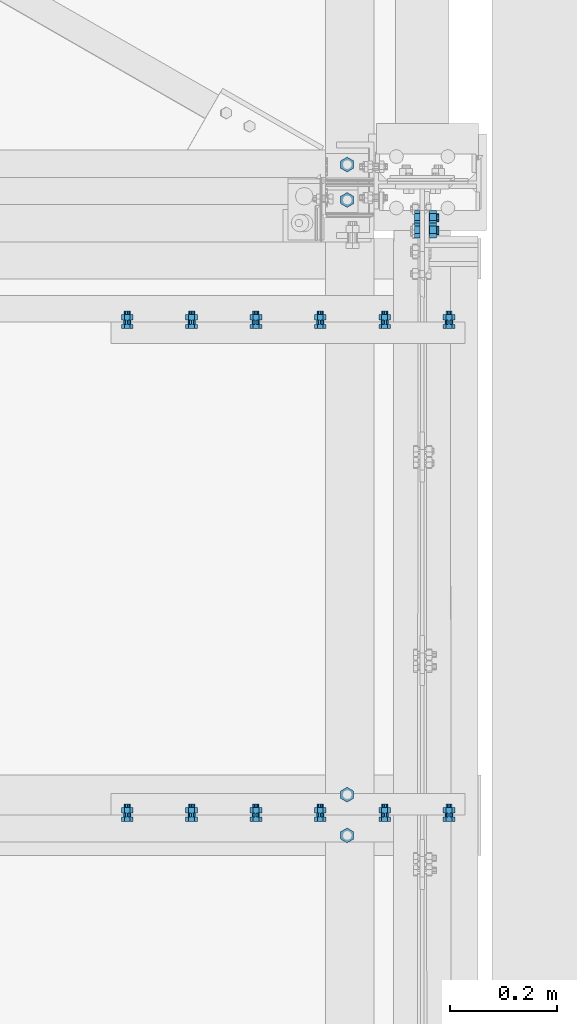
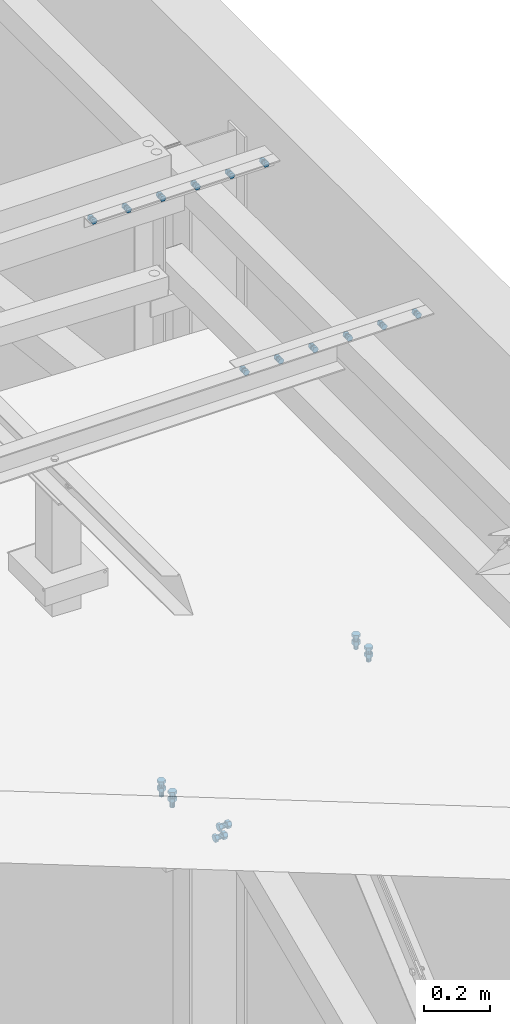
# One storey, part 349 of 3134: 5 mechanical fasteners, 5 elements without a shape of their own.
"""IFC2X3 building model written with IfcOpenShell, lengths in millimetres."""

from ifc_helpers import new_model, si_unit, frame, origin_with_axes, place, context, subcontext, project, spatial, faceted_brep, source, transform, mapped, material, type_object, element, aggregate, save


model = new_model("IFC2X3")

# Units and contexts
model_context = context("Model", 3, precision=1e-05, world=origin_with_axes())
body_context = subcontext(model_context, "Body", "Model", "MODEL_VIEW")
ifc_project = project(units=[si_unit("LENGTHUNIT", "METRE", prefix="MILLI"), si_unit("AREAUNIT", "SQUARE_METRE"), si_unit("VOLUMEUNIT", "CUBIC_METRE"), si_unit("MASSUNIT", "GRAM", prefix="KILO"), si_unit("TIMEUNIT", "SECOND"), si_unit("PLANEANGLEUNIT", "RADIAN"), si_unit("SOLIDANGLEUNIT", "STERADIAN"), si_unit("THERMODYNAMICTEMPERATUREUNIT", "DEGREE_CELSIUS"), si_unit("LUMINOUSINTENSITYUNIT", "LUMEN")], contexts=[model_context])

# Site, building, storey
site_placement = place(None, origin_with_axes())
site = spatial("IfcSite", under=ifc_project, at=site_placement, CompositionType="ELEMENT")
building_placement = place(site_placement, origin_with_axes())
building = spatial("IfcBuilding", under=site, at=building_placement, Name="Undefined", CompositionType="ELEMENT")
storey_placement = place(building_placement, origin_with_axes())
storey = spatial("IfcBuildingStorey", under=building, at=storey_placement, Name="Undefined", CompositionType="ELEMENT", Elevation=0.0)

# Assembly, mechanical fastener
assembly_1_placement = place(storey_placement, origin_with_axes())
assembly_1 = element("IfcElementAssembly", 1, at=assembly_1_placement, inside=storey, Name="IPE200", AssemblyPlace="NOTDEFINED", PredefinedType="RIGID_FRAME")
ifc_material = material(Name="8.8")
mechanical_fastener_type = type_object("IfcMechanicalFastenerType", Name="Bolt assembly")
shared_shape_1 = source(origin_with_axes(), body_context, "Body", "Brep", [
    faceted_brep([(13.856406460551, -12.9999980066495, 0.0), (6.92820323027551, -12.9999980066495, 12.0), (-6.92820323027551, -12.9999980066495, 12.0), (-13.856406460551, -12.9999980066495, 1.69692038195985e-15), (-6.92820323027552, -12.9999980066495, -12.0), (6.9282032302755, -12.9999980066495, -12.0), (6.9282032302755, -2.99999800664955, -12.0), (-6.92820323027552, -2.99999800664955, -12.0), (-13.856406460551, -2.99999800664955, 1.69692038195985e-15), (-6.92820323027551, -2.99999800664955, 12.0), (6.92820323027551, -2.99999800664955, 12.0), (13.856406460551, -2.99999800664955, 0.0), (8.0, -2.99999800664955, 0.0), (6.92820323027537, -2.99999800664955, 4.00000000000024), (3.99999999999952, -2.99999800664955, 6.92820323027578), (-8.29068785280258e-13, -2.99999800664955, 8.0), (-4.00000000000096, -2.99999800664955, 6.92820323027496), (-6.9282032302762, -2.99999800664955, 3.99999999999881), (-8.0, -2.99999800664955, -1.65813757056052e-12), (-6.92820323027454, -2.99999800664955, -4.00000000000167), (-3.99999999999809, -2.99999800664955, -6.92820323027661), (2.47832457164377e-12, -2.99999800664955, -8.0), (4.00000000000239, -2.99999800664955, -6.92820323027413), (6.92820323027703, -2.99999800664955, -3.99999999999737), (6.92820323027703, 32.0000019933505, -3.99999999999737), (4.00000000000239, 32.0000019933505, -6.92820323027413), (2.47832457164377e-12, 32.0000019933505, -8.0), (-3.99999999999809, 32.0000019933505, -6.92820323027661), (-6.92820323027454, 32.0000019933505, -4.00000000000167), (-8.0, 32.0000019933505, -1.65813757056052e-12), (-6.9282032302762, 32.0000019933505, 3.99999999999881), (-4.00000000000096, 32.0000019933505, 6.92820323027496), (-8.29068785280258e-13, 32.0000019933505, 8.0), (3.99999999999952, 32.0000019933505, 6.92820323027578), (6.92820323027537, 32.0000019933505, 4.00000000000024), (8.0, 32.0000019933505, 0.0), (13.856406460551, 14.9999995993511, 0.0), (6.92820323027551, 14.9999995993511, 12.0), (-6.92820323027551, 14.9999995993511, 12.0), (-13.856406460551, 14.9999995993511, 1.69692038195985e-15), (-6.92820323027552, 14.9999995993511, -12.0), (6.9282032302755, 14.9999995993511, -12.0), (6.9282032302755, 27.9999995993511, -12.0), (-6.92820323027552, 27.9999995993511, -12.0), (-13.856406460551, 27.9999995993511, 1.69692038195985e-15), (-6.92820323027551, 27.9999995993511, 12.0), (6.92820323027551, 27.9999995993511, 12.0), (13.856406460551, 27.9999995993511, 0.0)], [[[0, 1, 2, 3, 4, 5]], [[6, 7, 8, 9, 10, 11]], [[0, 11, 10, 1]], [[1, 10, 9, 2]], [[2, 9, 8, 3]], [[3, 8, 7, 4]], [[4, 7, 6, 5]], [[5, 6, 11, 0]], [[12, 13, 14, 15, 16, 17, 18, 19, 20, 21, 22, 23]], [[24, 25, 26, 27, 28, 29, 30, 31, 32, 33, 34, 35]], [[12, 35, 34, 13]], [[13, 34, 33, 14]], [[14, 33, 32, 15]], [[15, 32, 31, 16]], [[16, 31, 30, 17]], [[17, 30, 29, 18]], [[18, 29, 28, 19]], [[19, 28, 27, 20]], [[20, 27, 26, 21]], [[21, 26, 25, 22]], [[22, 25, 24, 23]], [[23, 24, 35, 12]], [[36, 37, 38, 39, 40, 41]], [[42, 43, 44, 45, 46, 47]], [[36, 47, 46, 37]], [[37, 46, 45, 38]], [[38, 45, 44, 39]], [[39, 44, 43, 40]], [[40, 43, 42, 41]], [[41, 42, 47, 36]]]),
    faceted_brep([(9.0, 4.90000583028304, 0.0), (7.79422863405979, 4.90000583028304, 4.50000000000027), (4.49999999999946, 4.90000583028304, 7.79422863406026), (-9.3270238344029e-13, 4.90000583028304, 9.0), (-4.50000000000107, 4.90000583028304, 7.79422863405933), (-7.79422863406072, 4.90000583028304, 4.49999999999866), (-9.0, 4.90000583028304, -1.86540476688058e-12), (-7.79422863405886, 4.90000583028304, -4.50000000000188), (-4.49999999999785, 4.90000583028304, -7.79422863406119), (2.78811514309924e-12, 4.90000583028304, -9.0), (4.50000000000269, 4.90000583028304, -7.7942286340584), (7.79422863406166, 4.90000583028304, -4.49999999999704), (7.79422863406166, 14.9999995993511, -4.49999999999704), (4.50000000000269, 14.9999995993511, -7.7942286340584), (2.78811514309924e-12, 14.9999995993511, -9.0), (-4.49999999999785, 14.9999995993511, -7.79422863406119), (-7.79422863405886, 14.9999995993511, -4.50000000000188), (-9.0, 14.9999995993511, -1.86540476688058e-12), (-7.79422863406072, 14.9999995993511, 4.49999999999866), (-4.50000000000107, 14.9999995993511, 7.79422863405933), (-9.3270238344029e-13, 14.9999995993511, 9.0), (4.49999999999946, 14.9999995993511, 7.79422863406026), (7.79422863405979, 14.9999995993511, 4.50000000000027), (9.0, 14.9999995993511, 0.0), (9.0, -2.89999800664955, 0.0), (7.79422863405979, -2.89999800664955, 4.50000000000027), (4.49999999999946, -2.89999800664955, 7.79422863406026), (-9.3270238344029e-13, -2.89999800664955, 9.0), (-4.50000000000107, -2.89999800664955, 7.79422863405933), (-7.79422863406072, -2.89999800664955, 4.49999999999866), (-9.0, -2.89999800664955, -1.86540476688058e-12), (-7.79422863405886, -2.89999800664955, -4.50000000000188), (-4.49999999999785, -2.89999800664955, -7.79422863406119), (2.78811514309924e-12, -2.89999800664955, -9.0), (4.50000000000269, -2.89999800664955, -7.7942286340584), (7.79422863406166, -2.89999800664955, -4.49999999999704), (7.79422863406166, 5.10000199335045, -4.49999999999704), (4.50000000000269, 5.10000199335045, -7.7942286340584), (2.78811514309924e-12, 5.10000199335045, -9.0), (-4.49999999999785, 5.10000199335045, -7.79422863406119), (-7.79422863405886, 5.10000199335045, -4.50000000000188), (-9.0, 5.10000199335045, -1.86540476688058e-12), (-7.79422863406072, 5.10000199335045, 4.49999999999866), (-4.50000000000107, 5.10000199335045, 7.79422863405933), (-9.3270238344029e-13, 5.10000199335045, 9.0), (4.49999999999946, 5.10000199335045, 7.79422863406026), (7.79422863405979, 5.10000199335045, 4.50000000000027), (9.0, 5.10000199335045, 0.0)], [[[0, 1, 2, 3, 4, 5, 6, 7, 8, 9, 10, 11]], [[12, 13, 14, 15, 16, 17, 18, 19, 20, 21, 22, 23]], [[0, 23, 22, 1]], [[1, 22, 21, 2]], [[2, 21, 20, 3]], [[3, 20, 19, 4]], [[4, 19, 18, 5]], [[5, 18, 17, 6]], [[6, 17, 16, 7]], [[7, 16, 15, 8]], [[8, 15, 14, 9]], [[9, 14, 13, 10]], [[10, 13, 12, 11]], [[11, 12, 23, 0]], [[24, 25, 26, 27, 28, 29, 30, 31, 32, 33, 34, 35]], [[36, 37, 38, 39, 40, 41, 42, 43, 44, 45, 46, 47]], [[24, 47, 46, 25]], [[25, 46, 45, 26]], [[26, 45, 44, 27]], [[27, 44, 43, 28]], [[28, 43, 42, 29]], [[29, 42, 41, 30]], [[30, 41, 40, 31]], [[31, 40, 39, 32]], [[32, 39, 38, 33]], [[33, 38, 37, 34]], [[34, 37, 36, 35]], [[35, 36, 47, 24]]]),
])
mechanical_fastener_1_placement = place(assembly_1_placement, frame((79223.999998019, 13483.8993577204, 3341.68002528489), z_axis=(0.0, 0.917802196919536, 0.397037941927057), x_axis=(0.0, -0.397037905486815, 0.917802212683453)))
mechanical_fastener_1 = element("IfcMechanicalFastener", 2, at=mechanical_fastener_1_placement, type_object=mechanical_fastener_type, material=ifc_material, Name="Bolt assembly", NominalDiameter=16.0, NominalLength=35.0, context=body_context, shape_type="MappedRepresentation", body=[
    mapped(shared_shape_1, transform((0.0, 0.0, 0.0))),
    mapped(shared_shape_1, transform((59.9999999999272, 0.0, 5.40239852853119e-10))),
])
aggregate(assembly_1, [mechanical_fastener_1])

assembly_2_placement = place(storey_placement, origin_with_axes())
assembly_2 = element("IfcElementAssembly", 3, at=assembly_2_placement, inside=storey, Name="UPN260", AssemblyPlace="NOTDEFINED", PredefinedType="RIGID_FRAME")
shared_shape_2 = source(origin_with_axes(), body_context, "Body", "Brep", [
    faceted_brep([(13.856406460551, -10.0, 0.0), (6.92820323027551, -10.0, 12.0), (-6.92820323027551, -10.0, 12.0), (-13.856406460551, -10.0, 1.69692038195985e-15), (-6.92820323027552, -10.0, -12.0), (6.9282032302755, -10.0, -12.0), (6.9282032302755, 0.0, -12.0), (-6.92820323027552, 0.0, -12.0), (-13.856406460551, 0.0, 1.69692038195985e-15), (-6.92820323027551, 0.0, 12.0), (6.92820323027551, 0.0, 12.0), (13.856406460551, 0.0, 0.0), (8.0, 0.0, 0.0), (6.92820323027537, 0.0, 4.00000000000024), (3.99999999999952, 0.0, 6.92820323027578), (-8.29068785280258e-13, 0.0, 8.0), (-4.00000000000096, 0.0, 6.92820323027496), (-6.9282032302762, 0.0, 3.99999999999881), (-8.0, 0.0, -1.65813757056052e-12), (-6.92820323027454, 0.0, -4.00000000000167), (-3.99999999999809, 0.0, -6.92820323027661), (2.47832457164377e-12, 0.0, -8.0), (4.00000000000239, 0.0, -6.92820323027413), (6.92820323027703, 0.0, -3.99999999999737), (6.92820323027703, 45.0, -3.99999999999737), (4.00000000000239, 45.0, -6.92820323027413), (2.47832457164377e-12, 45.0, -8.0), (-3.99999999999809, 45.0, -6.92820323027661), (-6.92820323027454, 45.0, -4.00000000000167), (-8.0, 45.0, -1.65813757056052e-12), (-6.9282032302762, 45.0, 3.99999999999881), (-4.00000000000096, 45.0, 6.92820323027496), (-8.29068785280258e-13, 45.0, 8.0), (3.99999999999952, 45.0, 6.92820323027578), (6.92820323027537, 45.0, 4.00000000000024), (8.0, 45.0, 0.0), (13.856406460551, 13.9999999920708, 0.0), (6.92820323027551, 13.9999999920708, 12.0), (-6.92820323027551, 13.9999999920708, 12.0), (-13.856406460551, 13.9999999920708, 1.69692038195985e-15), (-6.92820323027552, 13.9999999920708, -12.0), (6.9282032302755, 13.9999999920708, -12.0), (6.9282032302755, 27.0, -12.0), (-6.92820323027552, 27.0, -12.0), (-13.856406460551, 27.0, 1.69692038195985e-15), (-6.92820323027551, 27.0, 12.0), (6.92820323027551, 27.0, 12.0), (13.856406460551, 27.0, 0.0)], [[[0, 1, 2, 3, 4, 5]], [[6, 7, 8, 9, 10, 11]], [[0, 11, 10, 1]], [[1, 10, 9, 2]], [[2, 9, 8, 3]], [[3, 8, 7, 4]], [[4, 7, 6, 5]], [[5, 6, 11, 0]], [[12, 13, 14, 15, 16, 17, 18, 19, 20, 21, 22, 23]], [[24, 25, 26, 27, 28, 29, 30, 31, 32, 33, 34, 35]], [[12, 35, 34, 13]], [[13, 34, 33, 14]], [[14, 33, 32, 15]], [[15, 32, 31, 16]], [[16, 31, 30, 17]], [[17, 30, 29, 18]], [[18, 29, 28, 19]], [[19, 28, 27, 20]], [[20, 27, 26, 21]], [[21, 26, 25, 22]], [[22, 25, 24, 23]], [[23, 24, 35, 12]], [[36, 37, 38, 39, 40, 41]], [[42, 43, 44, 45, 46, 47]], [[36, 47, 46, 37]], [[37, 46, 45, 38]], [[38, 45, 44, 39]], [[39, 44, 43, 40]], [[40, 43, 42, 41]], [[41, 42, 47, 36]]]),
    faceted_brep([(9.0, -3.46568413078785e-07, 0.0), (7.79422863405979, -3.46568413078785e-07, 4.50000000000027), (4.49999999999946, -3.46568413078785e-07, 7.79422863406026), (-9.3270238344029e-13, -3.46568413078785e-07, 9.0), (-4.50000000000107, -3.46568413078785e-07, 7.79422863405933), (-7.79422863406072, -3.46568413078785e-07, 4.49999999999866), (-9.0, -3.46568413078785e-07, -1.86540476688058e-12), (-7.79422863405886, -3.46568413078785e-07, -4.50000000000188), (-4.49999999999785, -3.46568413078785e-07, -7.79422863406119), (2.78811514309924e-12, -3.46568413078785e-07, -9.0), (4.50000000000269, -3.46568413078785e-07, -7.7942286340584), (7.79422863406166, -3.46568413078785e-07, -4.49999999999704), (7.79422863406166, 14.1000000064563, -4.49999999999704), (4.50000000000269, 14.1000000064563, -7.7942286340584), (2.78811514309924e-12, 14.1000000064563, -9.0), (-4.49999999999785, 14.1000000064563, -7.79422863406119), (-7.79422863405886, 14.1000000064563, -4.50000000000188), (-9.0, 14.1000000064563, -1.86540476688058e-12), (-7.79422863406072, 14.1000000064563, 4.49999999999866), (-4.50000000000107, 14.1000000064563, 7.79422863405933), (-9.3270238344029e-13, 14.1000000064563, 9.0), (4.49999999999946, 14.1000000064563, 7.79422863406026), (7.79422863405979, 14.1000000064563, 4.50000000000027), (9.0, 14.1000000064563, 0.0)], [[[0, 1, 2, 3, 4, 5, 6, 7, 8, 9, 10, 11]], [[12, 13, 14, 15, 16, 17, 18, 19, 20, 21, 22, 23]], [[0, 23, 22, 1]], [[1, 22, 21, 2]], [[2, 21, 20, 3]], [[3, 20, 19, 4]], [[4, 19, 18, 5]], [[5, 18, 17, 6]], [[6, 17, 16, 7]], [[7, 16, 15, 8]], [[8, 15, 14, 9]], [[9, 14, 13, 10]], [[10, 13, 12, 11]], [[11, 12, 23, 0]]]),
])
mechanical_fastener_2_placement = place(assembly_2_placement, frame((79085.0, 12332.0, 4783.722486), z_axis=(-1.0, 0.0, 0.0), x_axis=(0.0, 1.0, 0.0)))
mechanical_fastener_2 = element("IfcMechanicalFastener", 4, at=mechanical_fastener_2_placement, type_object=mechanical_fastener_type, material=ifc_material, Name="Bolt assembly", NominalDiameter=16.0, NominalLength=45.0, context=body_context, shape_type="MappedRepresentation", body=[
    mapped(shared_shape_2, transform((0.0, 0.0, 0.0))),
    mapped(shared_shape_2, transform((76.0, 0.0, 0.0))),
])
aggregate(assembly_2, [mechanical_fastener_2])

assembly_3_placement = place(storey_placement, origin_with_axes())
assembly_3 = element("IfcElementAssembly", 5, at=assembly_3_placement, inside=storey, Name="UPN260", AssemblyPlace="NOTDEFINED", PredefinedType="RIGID_FRAME")
shared_shape_3 = source(origin_with_axes(), body_context, "Body", "Brep", [
    faceted_brep([(13.856406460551, -10.0, 0.0), (6.92820323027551, -10.0, 12.0), (-6.92820323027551, -10.0, 12.0), (-13.856406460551, -10.0, 1.69692038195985e-15), (-6.92820323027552, -10.0, -12.0), (6.9282032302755, -10.0, -12.0), (6.9282032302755, 0.0, -12.0), (-6.92820323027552, 0.0, -12.0), (-13.856406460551, 0.0, 1.69692038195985e-15), (-6.92820323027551, 0.0, 12.0), (6.92820323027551, 0.0, 12.0), (13.856406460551, 0.0, 0.0), (8.0, 0.0, 0.0), (6.92820323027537, 0.0, 4.00000000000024), (3.99999999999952, 0.0, 6.92820323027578), (-8.29068785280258e-13, 0.0, 8.0), (-4.00000000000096, 0.0, 6.92820323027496), (-6.9282032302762, 0.0, 3.99999999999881), (-8.0, 0.0, -1.65813757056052e-12), (-6.92820323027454, 0.0, -4.00000000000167), (-3.99999999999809, 0.0, -6.92820323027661), (2.47832457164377e-12, 0.0, -8.0), (4.00000000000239, 0.0, -6.92820323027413), (6.92820323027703, 0.0, -3.99999999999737), (6.92820323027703, 49.9999999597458, -3.99999999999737), (4.00000000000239, 49.9999999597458, -6.92820323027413), (2.47832457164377e-12, 49.9999999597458, -8.0), (-3.99999999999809, 49.9999999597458, -6.92820323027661), (-6.92820323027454, 49.9999999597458, -4.00000000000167), (-8.0, 49.9999999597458, -1.65813757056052e-12), (-6.9282032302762, 49.9999999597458, 3.99999999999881), (-4.00000000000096, 49.9999999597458, 6.92820323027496), (-8.29068785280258e-13, 49.9999999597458, 8.0), (3.99999999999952, 49.9999999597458, 6.92820323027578), (6.92820323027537, 49.9999999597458, 4.00000000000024), (8.0, 49.9999999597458, 0.0), (13.856406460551, 13.9999999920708, 0.0), (6.92820323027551, 13.9999999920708, 12.0), (-6.92820323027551, 13.9999999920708, 12.0), (-13.856406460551, 13.9999999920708, 1.69692038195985e-15), (-6.92820323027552, 13.9999999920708, -12.0), (6.9282032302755, 13.9999999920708, -12.0), (6.9282032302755, 27.0, -12.0), (-6.92820323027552, 27.0, -12.0), (-13.856406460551, 27.0, 1.69692038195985e-15), (-6.92820323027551, 27.0, 12.0), (6.92820323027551, 27.0, 12.0), (13.856406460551, 27.0, 0.0)], [[[0, 1, 2, 3, 4, 5]], [[6, 7, 8, 9, 10, 11]], [[0, 11, 10, 1]], [[1, 10, 9, 2]], [[2, 9, 8, 3]], [[3, 8, 7, 4]], [[4, 7, 6, 5]], [[5, 6, 11, 0]], [[12, 13, 14, 15, 16, 17, 18, 19, 20, 21, 22, 23]], [[24, 25, 26, 27, 28, 29, 30, 31, 32, 33, 34, 35]], [[12, 35, 34, 13]], [[13, 34, 33, 14]], [[14, 33, 32, 15]], [[15, 32, 31, 16]], [[16, 31, 30, 17]], [[17, 30, 29, 18]], [[18, 29, 28, 19]], [[19, 28, 27, 20]], [[20, 27, 26, 21]], [[21, 26, 25, 22]], [[22, 25, 24, 23]], [[23, 24, 35, 12]], [[36, 37, 38, 39, 40, 41]], [[42, 43, 44, 45, 46, 47]], [[36, 47, 46, 37]], [[37, 46, 45, 38]], [[38, 45, 44, 39]], [[39, 44, 43, 40]], [[40, 43, 42, 41]], [[41, 42, 47, 36]]]),
    faceted_brep([(9.0, -3.46568413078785e-07, 0.0), (7.79422863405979, -3.46568413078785e-07, 4.50000000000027), (4.49999999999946, -3.46568413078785e-07, 7.79422863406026), (-9.3270238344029e-13, -3.46568413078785e-07, 9.0), (-4.50000000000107, -3.46568413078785e-07, 7.79422863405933), (-7.79422863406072, -3.46568413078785e-07, 4.49999999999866), (-9.0, -3.46568413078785e-07, -1.86540476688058e-12), (-7.79422863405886, -3.46568413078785e-07, -4.50000000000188), (-4.49999999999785, -3.46568413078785e-07, -7.79422863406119), (2.78811514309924e-12, -3.46568413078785e-07, -9.0), (4.50000000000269, -3.46568413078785e-07, -7.7942286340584), (7.79422863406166, -3.46568413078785e-07, -4.49999999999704), (7.79422863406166, 14.1000000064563, -4.49999999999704), (4.50000000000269, 14.1000000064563, -7.7942286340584), (2.78811514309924e-12, 14.1000000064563, -9.0), (-4.49999999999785, 14.1000000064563, -7.79422863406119), (-7.79422863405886, 14.1000000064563, -4.50000000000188), (-9.0, 14.1000000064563, -1.86540476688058e-12), (-7.79422863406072, 14.1000000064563, 4.49999999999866), (-4.50000000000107, 14.1000000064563, 7.79422863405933), (-9.3270238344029e-13, 14.1000000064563, 9.0), (4.49999999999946, 14.1000000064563, 7.79422863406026), (7.79422863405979, 14.1000000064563, 4.50000000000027), (9.0, 14.1000000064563, 0.0)], [[[0, 1, 2, 3, 4, 5, 6, 7, 8, 9, 10, 11]], [[12, 13, 14, 15, 16, 17, 18, 19, 20, 21, 22, 23]], [[0, 23, 22, 1]], [[1, 22, 21, 2]], [[2, 21, 20, 3]], [[3, 20, 19, 4]], [[4, 19, 18, 5]], [[5, 18, 17, 6]], [[6, 17, 16, 7]], [[7, 16, 15, 8]], [[8, 15, 14, 9]], [[9, 14, 13, 10]], [[10, 13, 12, 11]], [[11, 12, 23, 0]]]),
])
mechanical_fastener_3_placement = place(assembly_3_placement, frame((79085.0, 13517.003333, 3532.964809), z_axis=(-1.0, 0.0, 0.0), x_axis=(0.0, 1.0, 0.0)))
mechanical_fastener_3 = element("IfcMechanicalFastener", 6, at=mechanical_fastener_3_placement, type_object=mechanical_fastener_type, material=ifc_material, Name="Bolt assembly", NominalDiameter=16.0, NominalLength=50.0, context=body_context, shape_type="MappedRepresentation", body=[
    mapped(shared_shape_3, transform((0.0, 0.0, 0.0))),
    mapped(shared_shape_3, transform((66.0, 0.0, 0.0))),
])
aggregate(assembly_3, [mechanical_fastener_3])

assembly_4_placement = place(storey_placement, origin_with_axes())
assembly_4 = element("IfcElementAssembly", 7, at=assembly_4_placement, inside=storey, AssemblyPlace="NOTDEFINED", PredefinedType="RIGID_FRAME")
shared_shape_4 = source(origin_with_axes(), body_context, "Body", "Brep", [
    faceted_brep([(10.9696551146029, -12.0, 0.0), (5.48482755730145, -12.0, 9.5), (-5.48482755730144, -12.0, 9.5), (-10.9696551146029, -12.0, 1.34339530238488e-15), (-5.48482755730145, -12.0, -9.5), (5.48482755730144, -12.0, -9.50000000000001), (5.48482755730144, -4.0, -9.50000000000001), (-5.48482755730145, -4.0, -9.5), (-10.9696551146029, -4.0, 1.34339530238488e-15), (-5.48482755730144, -4.0, 9.5), (5.48482755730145, -4.0, 9.5), (10.9696551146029, -4.0, 0.0), (6.0, -4.0, 0.0), (5.19615242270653, -4.0, 3.00000000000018), (2.99999999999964, -4.0, 5.19615242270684), (-6.21801588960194e-13, -4.0, 6.0), (-3.00000000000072, -4.0, 5.19615242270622), (-5.19615242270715, -4.0, 2.9999999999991), (-6.0, -4.0, -1.24360317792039e-12), (-5.19615242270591, -4.0, -3.00000000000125), (-2.99999999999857, -4.0, -5.19615242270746), (1.85874342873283e-12, -4.0, -6.0), (3.00000000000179, -4.0, -5.1961524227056), (5.19615242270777, -4.0, -2.99999999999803), (5.19615242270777, 21.0, -2.99999999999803), (3.00000000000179, 21.0, -5.1961524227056), (1.85874342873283e-12, 21.0, -6.0), (-2.99999999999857, 21.0, -5.19615242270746), (-5.19615242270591, 21.0, -3.00000000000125), (-6.0, 21.0, -1.24360317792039e-12), (-5.19615242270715, 21.0, 2.9999999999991), (-3.00000000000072, 21.0, 5.19615242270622), (-6.21801588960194e-13, 21.0, 6.0), (2.99999999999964, 21.0, 5.19615242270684), (5.19615242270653, 21.0, 3.00000000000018), (6.0, 21.0, 0.0), (10.9696551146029, 4.00000000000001, 0.0), (5.48482755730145, 4.00000000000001, 9.5), (-5.48482755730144, 4.00000000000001, 9.5), (-10.9696551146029, 4.00000000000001, 1.34339530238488e-15), (-5.48482755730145, 4.00000000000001, -9.5), (5.48482755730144, 4.00000000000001, -9.50000000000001), (5.48482755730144, 14.0, -9.50000000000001), (-5.48482755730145, 14.0, -9.5), (-10.9696551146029, 14.0, 1.34339530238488e-15), (-5.48482755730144, 14.0, 9.5), (5.48482755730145, 14.0, 9.5), (10.9696551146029, 14.0, 0.0)], [[[0, 1, 2, 3, 4, 5]], [[6, 7, 8, 9, 10, 11]], [[0, 11, 10, 1]], [[1, 10, 9, 2]], [[2, 9, 8, 3]], [[3, 8, 7, 4]], [[4, 7, 6, 5]], [[5, 6, 11, 0]], [[12, 13, 14, 15, 16, 17, 18, 19, 20, 21, 22, 23]], [[24, 25, 26, 27, 28, 29, 30, 31, 32, 33, 34, 35]], [[12, 35, 34, 13]], [[13, 34, 33, 14]], [[14, 33, 32, 15]], [[15, 32, 31, 16]], [[16, 31, 30, 17]], [[17, 30, 29, 18]], [[18, 29, 28, 19]], [[19, 28, 27, 20]], [[20, 27, 26, 21]], [[21, 26, 25, 22]], [[22, 25, 24, 23]], [[23, 24, 35, 12]], [[36, 37, 38, 39, 40, 41]], [[42, 43, 44, 45, 46, 47]], [[36, 47, 46, 37]], [[37, 46, 45, 38]], [[38, 45, 44, 39]], [[39, 44, 43, 40]], [[40, 43, 42, 41]], [[41, 42, 47, 36]]]),
    faceted_brep([(7.0, -3.9, 0.0), (6.06217782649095, -3.9, 3.50000000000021), (3.49999999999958, -3.9, 6.06217782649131), (-7.25435187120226e-13, -3.9, 7.0), (-3.50000000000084, -3.9, 6.06217782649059), (-6.06217782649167, -3.9, 3.49999999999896), (-7.0, -3.9, -1.45087037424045e-12), (-6.06217782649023, -3.9, -3.50000000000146), (-3.49999999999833, -3.9, -6.06217782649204), (2.1685340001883e-12, -3.9, -7.0), (3.50000000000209, -3.9, -6.06217782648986), (6.0621778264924, -3.9, -3.4999999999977), (6.0621778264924, 0.0999999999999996, -3.4999999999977), (3.50000000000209, 0.0999999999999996, -6.06217782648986), (2.1685340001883e-12, 0.0999999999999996, -7.0), (-3.49999999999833, 0.0999999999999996, -6.06217782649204), (-6.06217782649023, 0.0999999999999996, -3.50000000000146), (-7.0, 0.0999999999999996, -1.45087037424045e-12), (-6.06217782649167, 0.0999999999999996, 3.49999999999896), (-3.50000000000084, 0.0999999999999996, 6.06217782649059), (-7.25435187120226e-13, 0.0999999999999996, 7.0), (3.49999999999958, 0.0999999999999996, 6.06217782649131), (6.06217782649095, 0.0999999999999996, 3.50000000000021), (7.0, 0.0999999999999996, 0.0), (7.0, -0.1, 0.0), (6.06217782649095, -0.1, 3.50000000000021), (3.49999999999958, -0.1, 6.06217782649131), (-7.25435187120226e-13, -0.1, 7.0), (-3.50000000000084, -0.1, 6.06217782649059), (-6.06217782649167, -0.1, 3.49999999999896), (-7.0, -0.1, -1.45087037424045e-12), (-6.06217782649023, -0.1, -3.50000000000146), (-3.49999999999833, -0.1, -6.06217782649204), (2.1685340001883e-12, -0.1, -7.0), (3.50000000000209, -0.1, -6.06217782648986), (6.0621778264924, -0.1, -3.4999999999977), (6.0621778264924, 4.00000000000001, -3.4999999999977), (3.50000000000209, 4.00000000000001, -6.06217782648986), (2.1685340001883e-12, 4.00000000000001, -7.0), (-3.49999999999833, 4.00000000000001, -6.06217782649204), (-6.06217782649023, 4.00000000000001, -3.50000000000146), (-7.0, 4.00000000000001, -1.45087037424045e-12), (-6.06217782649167, 4.00000000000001, 3.49999999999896), (-3.50000000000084, 4.00000000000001, 6.06217782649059), (-7.25435187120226e-13, 4.00000000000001, 7.0), (3.49999999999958, 4.00000000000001, 6.06217782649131), (6.06217782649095, 4.00000000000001, 3.50000000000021), (7.0, 4.00000000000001, 0.0)], [[[0, 1, 2, 3, 4, 5, 6, 7, 8, 9, 10, 11]], [[12, 13, 14, 15, 16, 17, 18, 19, 20, 21, 22, 23]], [[0, 23, 22, 1]], [[1, 22, 21, 2]], [[2, 21, 20, 3]], [[3, 20, 19, 4]], [[4, 19, 18, 5]], [[5, 18, 17, 6]], [[6, 17, 16, 7]], [[7, 16, 15, 8]], [[8, 15, 14, 9]], [[9, 14, 13, 10]], [[10, 13, 12, 11]], [[11, 12, 23, 0]], [[24, 25, 26, 27, 28, 29, 30, 31, 32, 33, 34, 35]], [[36, 37, 38, 39, 40, 41, 42, 43, 44, 45, 46, 47]], [[24, 47, 46, 25]], [[25, 46, 45, 26]], [[26, 45, 44, 27]], [[27, 44, 43, 28]], [[28, 43, 42, 29]], [[29, 42, 41, 30]], [[30, 41, 40, 31]], [[31, 40, 39, 32]], [[32, 39, 38, 33]], [[33, 38, 37, 34]], [[34, 37, 36, 35]], [[35, 36, 47, 24]]]),
])
mechanical_fastener_4_placement = place(assembly_4_placement, frame((78675.0, 13289.0, 5928.0), z_axis=(0.0, 0.0, 1.0), x_axis=(1.0, 0.0, 0.0)))
mechanical_fastener_4 = element("IfcMechanicalFastener", 8, at=mechanical_fastener_4_placement, type_object=mechanical_fastener_type, material=ifc_material, Name="Bolt assembly", NominalDiameter=12.0, NominalLength=25.0, context=body_context, shape_type="MappedRepresentation", body=[
    mapped(shared_shape_4, transform((0.0, 0.0, 0.0))),
    mapped(shared_shape_4, transform((120.0, 0.0, 0.0))),
    mapped(shared_shape_4, transform((240.0, 0.0, 0.0))),
    mapped(shared_shape_4, transform((360.0, 0.0, 0.0))),
    mapped(shared_shape_4, transform((480.0, 0.0, 0.0))),
    mapped(shared_shape_4, transform((600.0, 0.0, 0.0))),
])
aggregate(assembly_4, [mechanical_fastener_4])

assembly_5_placement = place(storey_placement, origin_with_axes())
assembly_5 = element("IfcElementAssembly", 9, at=assembly_5_placement, inside=storey, AssemblyPlace="NOTDEFINED", PredefinedType="RIGID_FRAME")
shared_shape_5 = source(origin_with_axes(), body_context, "Body", "Brep", [
    faceted_brep([(10.9696551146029, -12.0, 0.0), (5.48482755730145, -12.0, 9.5), (-5.48482755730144, -12.0, 9.5), (-10.9696551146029, -12.0, 1.34339530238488e-15), (-5.48482755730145, -12.0, -9.5), (5.48482755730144, -12.0, -9.50000000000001), (5.48482755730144, -4.0, -9.50000000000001), (-5.48482755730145, -4.0, -9.5), (-10.9696551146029, -4.0, 1.34339530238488e-15), (-5.48482755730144, -4.0, 9.5), (5.48482755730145, -4.0, 9.5), (10.9696551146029, -4.0, 0.0), (6.0, -4.0, 0.0), (5.19615242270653, -4.0, 3.00000000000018), (2.99999999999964, -4.0, 5.19615242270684), (-6.21801588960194e-13, -4.0, 6.0), (-3.00000000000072, -4.0, 5.19615242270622), (-5.19615242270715, -4.0, 2.9999999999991), (-6.0, -4.0, -1.24360317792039e-12), (-5.19615242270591, -4.0, -3.00000000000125), (-2.99999999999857, -4.0, -5.19615242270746), (1.85874342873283e-12, -4.0, -6.0), (3.00000000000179, -4.0, -5.1961524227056), (5.19615242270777, -4.0, -2.99999999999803), (5.19615242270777, 21.0, -2.99999999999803), (3.00000000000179, 21.0, -5.1961524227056), (1.85874342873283e-12, 21.0, -6.0), (-2.99999999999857, 21.0, -5.19615242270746), (-5.19615242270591, 21.0, -3.00000000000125), (-6.0, 21.0, -1.24360317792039e-12), (-5.19615242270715, 21.0, 2.9999999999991), (-3.00000000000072, 21.0, 5.19615242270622), (-6.21801588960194e-13, 21.0, 6.0), (2.99999999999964, 21.0, 5.19615242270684), (5.19615242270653, 21.0, 3.00000000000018), (6.0, 21.0, 0.0), (10.9696551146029, 4.00000000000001, 0.0), (5.48482755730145, 4.00000000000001, 9.5), (-5.48482755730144, 4.00000000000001, 9.5), (-10.9696551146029, 4.00000000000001, 1.34339530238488e-15), (-5.48482755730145, 4.00000000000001, -9.5), (5.48482755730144, 4.00000000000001, -9.50000000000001), (5.48482755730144, 14.0, -9.50000000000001), (-5.48482755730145, 14.0, -9.5), (-10.9696551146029, 14.0, 1.34339530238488e-15), (-5.48482755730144, 14.0, 9.5), (5.48482755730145, 14.0, 9.5), (10.9696551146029, 14.0, 0.0)], [[[0, 1, 2, 3, 4, 5]], [[6, 7, 8, 9, 10, 11]], [[0, 11, 10, 1]], [[1, 10, 9, 2]], [[2, 9, 8, 3]], [[3, 8, 7, 4]], [[4, 7, 6, 5]], [[5, 6, 11, 0]], [[12, 13, 14, 15, 16, 17, 18, 19, 20, 21, 22, 23]], [[24, 25, 26, 27, 28, 29, 30, 31, 32, 33, 34, 35]], [[12, 35, 34, 13]], [[13, 34, 33, 14]], [[14, 33, 32, 15]], [[15, 32, 31, 16]], [[16, 31, 30, 17]], [[17, 30, 29, 18]], [[18, 29, 28, 19]], [[19, 28, 27, 20]], [[20, 27, 26, 21]], [[21, 26, 25, 22]], [[22, 25, 24, 23]], [[23, 24, 35, 12]], [[36, 37, 38, 39, 40, 41]], [[42, 43, 44, 45, 46, 47]], [[36, 47, 46, 37]], [[37, 46, 45, 38]], [[38, 45, 44, 39]], [[39, 44, 43, 40]], [[40, 43, 42, 41]], [[41, 42, 47, 36]]]),
    faceted_brep([(7.0, -0.1, 0.0), (6.06217782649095, -0.1, 3.50000000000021), (3.49999999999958, -0.1, 6.06217782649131), (-7.25435187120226e-13, -0.1, 7.0), (-3.50000000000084, -0.1, 6.06217782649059), (-6.06217782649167, -0.1, 3.49999999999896), (-7.0, -0.1, -1.45087037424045e-12), (-6.06217782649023, -0.1, -3.50000000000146), (-3.49999999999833, -0.1, -6.06217782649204), (2.1685340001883e-12, -0.1, -7.0), (3.50000000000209, -0.1, -6.06217782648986), (6.0621778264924, -0.1, -3.4999999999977), (6.0621778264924, 4.00000000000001, -3.4999999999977), (3.50000000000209, 4.00000000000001, -6.06217782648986), (2.1685340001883e-12, 4.00000000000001, -7.0), (-3.49999999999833, 4.00000000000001, -6.06217782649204), (-6.06217782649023, 4.00000000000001, -3.50000000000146), (-7.0, 4.00000000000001, -1.45087037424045e-12), (-6.06217782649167, 4.00000000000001, 3.49999999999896), (-3.50000000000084, 4.00000000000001, 6.06217782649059), (-7.25435187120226e-13, 4.00000000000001, 7.0), (3.49999999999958, 4.00000000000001, 6.06217782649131), (6.06217782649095, 4.00000000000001, 3.50000000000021), (7.0, 4.00000000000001, 0.0), (7.0, -3.9, 0.0), (6.06217782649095, -3.9, 3.50000000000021), (3.49999999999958, -3.9, 6.06217782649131), (-7.25435187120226e-13, -3.9, 7.0), (-3.50000000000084, -3.9, 6.06217782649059), (-6.06217782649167, -3.9, 3.49999999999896), (-7.0, -3.9, -1.45087037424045e-12), (-6.06217782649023, -3.9, -3.50000000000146), (-3.49999999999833, -3.9, -6.06217782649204), (2.1685340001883e-12, -3.9, -7.0), (3.50000000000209, -3.9, -6.06217782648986), (6.0621778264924, -3.9, -3.4999999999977), (6.0621778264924, 0.0999999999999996, -3.4999999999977), (3.50000000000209, 0.0999999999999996, -6.06217782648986), (2.1685340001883e-12, 0.0999999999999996, -7.0), (-3.49999999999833, 0.0999999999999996, -6.06217782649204), (-6.06217782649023, 0.0999999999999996, -3.50000000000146), (-7.0, 0.0999999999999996, -1.45087037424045e-12), (-6.06217782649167, 0.0999999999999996, 3.49999999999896), (-3.50000000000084, 0.0999999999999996, 6.06217782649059), (-7.25435187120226e-13, 0.0999999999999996, 7.0), (3.49999999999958, 0.0999999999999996, 6.06217782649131), (6.06217782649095, 0.0999999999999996, 3.50000000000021), (7.0, 0.0999999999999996, 0.0)], [[[0, 1, 2, 3, 4, 5, 6, 7, 8, 9, 10, 11]], [[12, 13, 14, 15, 16, 17, 18, 19, 20, 21, 22, 23]], [[0, 23, 22, 1]], [[1, 22, 21, 2]], [[2, 21, 20, 3]], [[3, 20, 19, 4]], [[4, 19, 18, 5]], [[5, 18, 17, 6]], [[6, 17, 16, 7]], [[7, 16, 15, 8]], [[8, 15, 14, 9]], [[9, 14, 13, 10]], [[10, 13, 12, 11]], [[11, 12, 23, 0]], [[24, 25, 26, 27, 28, 29, 30, 31, 32, 33, 34, 35]], [[36, 37, 38, 39, 40, 41, 42, 43, 44, 45, 46, 47]], [[24, 47, 46, 25]], [[25, 46, 45, 26]], [[26, 45, 44, 27]], [[27, 44, 43, 28]], [[28, 43, 42, 29]], [[29, 42, 41, 30]], [[30, 41, 40, 31]], [[31, 40, 39, 32]], [[32, 39, 38, 33]], [[33, 38, 37, 34]], [[34, 37, 36, 35]], [[35, 36, 47, 24]]]),
])
mechanical_fastener_5_placement = place(assembly_5_placement, frame((78675.0, 12370.0, 5928.0), z_axis=(0.0, 0.0, 1.0), x_axis=(1.0, 0.0, 0.0)))
mechanical_fastener_5 = element("IfcMechanicalFastener", 10, at=mechanical_fastener_5_placement, type_object=mechanical_fastener_type, material=ifc_material, Name="Bolt assembly", NominalDiameter=12.0, NominalLength=25.0, context=body_context, shape_type="MappedRepresentation", body=[
    mapped(shared_shape_5, transform((0.0, 0.0, 0.0))),
    mapped(shared_shape_5, transform((120.0, 0.0, 0.0))),
    mapped(shared_shape_5, transform((240.0, 0.0, 0.0))),
    mapped(shared_shape_5, transform((360.0, 0.0, 0.0))),
    mapped(shared_shape_5, transform((480.0, 0.0, 0.0))),
    mapped(shared_shape_5, transform((600.0, 0.0, 0.0))),
])
aggregate(assembly_5, [mechanical_fastener_5])

save(model, "model.ifc")
